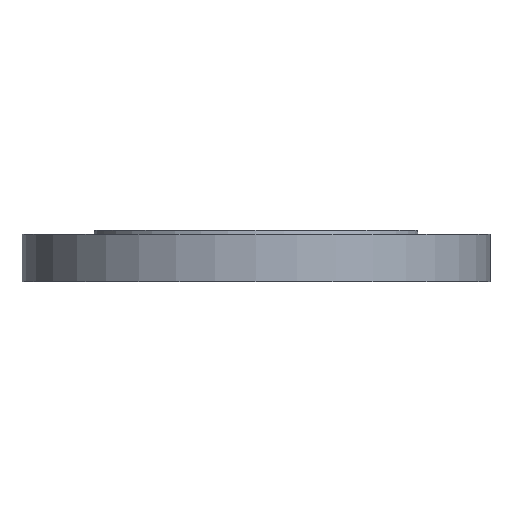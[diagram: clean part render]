
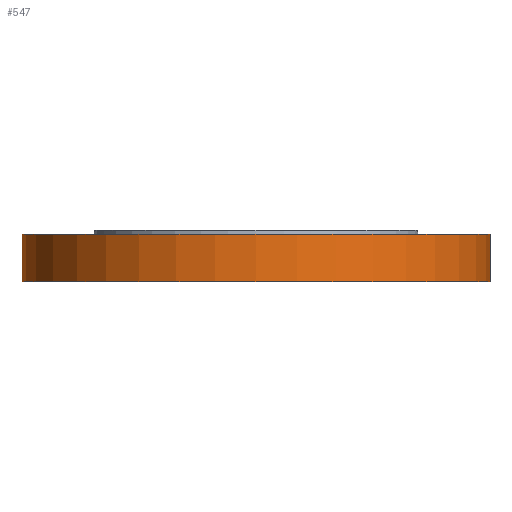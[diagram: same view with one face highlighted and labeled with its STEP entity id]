
A CAD part, front view. The second image highlights one B-rep face of the part: STEP entity #547.
In plain terms, the highlighted cylindrical face has radius 117.5 mm (diameter 235 mm), a partial arc.
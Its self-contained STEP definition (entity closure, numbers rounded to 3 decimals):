
#2 = AXIS2_PLACEMENT_3D ( 'NONE', #1034, #1036, #1037 ) ;
#10 = DIRECTION ( 'NONE',  ( -1., 0., 0. ) ) ;
#12 = DIRECTION ( 'NONE',  ( 0., 0., -1. ) ) ;
#13 = CARTESIAN_POINT ( 'NONE',  ( 0., 0., -26. ) ) ;
#53 = VECTOR ( 'NONE', #410, 1000. ) ;
#54 = DIRECTION ( 'NONE',  ( 1., 0., 0. ) ) ;
#75 = EDGE_CURVE ( 'NONE', #308, #842, #1028, .T. ) ;
#93 = VECTOR ( 'NONE', #1030, 1000. ) ;
#130 = EDGE_CURVE ( 'NONE', #842, #1002, #828, .T. ) ;
#144 = CARTESIAN_POINT ( 'NONE',  ( -117.5, 0., -75. ) ) ;
#180 = CYLINDRICAL_SURFACE ( 'NONE', #524, 117.5 ) ;
#227 = CARTESIAN_POINT ( 'NONE',  ( -117.5, 0., -2. ) ) ;
#308 = VERTEX_POINT ( 'NONE', #595 ) ;
#410 = DIRECTION ( 'NONE',  ( 0., 0., 1. ) ) ;
#437 = CARTESIAN_POINT ( 'NONE',  ( 0., 0., -75. ) ) ;
#463 = EDGE_CURVE ( 'NONE', #308, #860, #520, .T. ) ;
#503 = CARTESIAN_POINT ( 'NONE',  ( 117.5, 0., -2. ) ) ;
#513 = AXIS2_PLACEMENT_3D ( 'NONE', #13, #12, #10 ) ;
#520 = CIRCLE ( 'NONE', #513, 117.5 ) ;
#524 = AXIS2_PLACEMENT_3D ( 'NONE', #437, #713, #54 ) ;
#547 = ADVANCED_FACE ( 'NONE', ( #772 ), #180, .T. ) ;
#595 = CARTESIAN_POINT ( 'NONE',  ( 117.5, 0., -26. ) ) ;
#683 = EDGE_CURVE ( 'NONE', #860, #1002, #744, .T. ) ;
#713 = DIRECTION ( 'NONE',  ( 0., 0., 1. ) ) ;
#726 = ORIENTED_EDGE ( 'NONE', *, *, #683, .F. ) ;
#728 = ORIENTED_EDGE ( 'NONE', *, *, #463, .F. ) ;
#730 = ORIENTED_EDGE ( 'NONE', *, *, #75, .T. ) ;
#731 = ORIENTED_EDGE ( 'NONE', *, *, #130, .T. ) ;
#744 = LINE ( 'NONE', #144, #53 ) ;
#767 = CARTESIAN_POINT ( 'NONE',  ( -117.5, 0., -26. ) ) ;
#772 = FACE_OUTER_BOUND ( 'NONE', #942, .T. ) ;
#828 = CIRCLE ( 'NONE', #2, 117.5 ) ;
#842 = VERTEX_POINT ( 'NONE', #503 ) ;
#860 = VERTEX_POINT ( 'NONE', #767 ) ;
#942 = EDGE_LOOP ( 'NONE', ( #726, #728, #730, #731 ) ) ;
#1002 = VERTEX_POINT ( 'NONE', #227 ) ;
#1028 = LINE ( 'NONE', #1029, #93 ) ;
#1029 = CARTESIAN_POINT ( 'NONE',  ( 117.5, 0., -75. ) ) ;
#1030 = DIRECTION ( 'NONE',  ( 0., 0., 1. ) ) ;
#1034 = CARTESIAN_POINT ( 'NONE',  ( 0., 0., -2. ) ) ;
#1036 = DIRECTION ( 'NONE',  ( 0., 0., -1. ) ) ;
#1037 = DIRECTION ( 'NONE',  ( -1., 0., 0. ) ) ;
